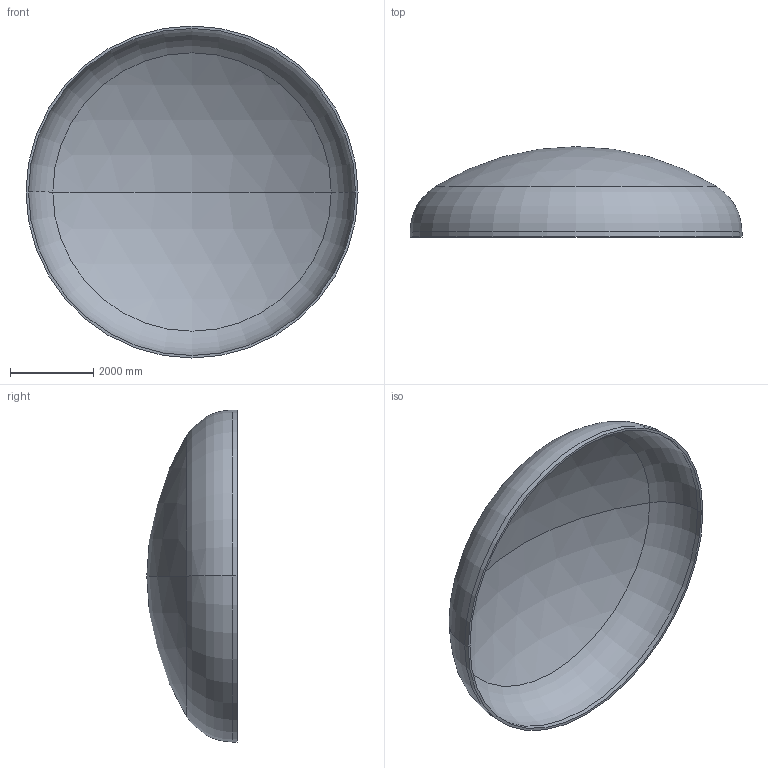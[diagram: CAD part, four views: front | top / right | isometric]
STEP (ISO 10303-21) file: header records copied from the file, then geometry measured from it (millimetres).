
FILE_DESCRIPTION (( 'STEP AP203' ), '1' );
FILE_NAME ('DIN 28013 Korbbogenform_-_Boden DIN 28013 - 8000 x 120 - I - s=60.step', '2016-07-04T11:02:54', ( '' ), ( '' ), 'SwSTEP 2.0', 'SolidWorks 2013', '' );
FILE_SCHEMA (( 'CONFIG_CONTROL_DESIGN' ));
Length unit declared in the file: millimetre
Products named in the file (1): DIN 28013 Korbbogenform_-_Boden DIN 28013 - 8000 x 120 - I - s=60
Bounding box: 8000 x 2177.18 x 8000 mm (x, y, z)
Volume: 4314122909 mm3; surface area: 145308235.1 mm2
Topology: 1 solids, 1 shells, 13 faces, 24 edges, 14 vertices
Faces by surface type: torus 4, cylinder 4, sphere 4, plane 1
Entity records: 407 total; most frequent: DIRECTION 72, CARTESIAN_POINT 52, ORIENTED_EDGE 48, AXIS2_PLACEMENT_3D 34, EDGE_CURVE 24, CIRCLE 20, EDGE_LOOP 14, VERTEX_POINT 14
